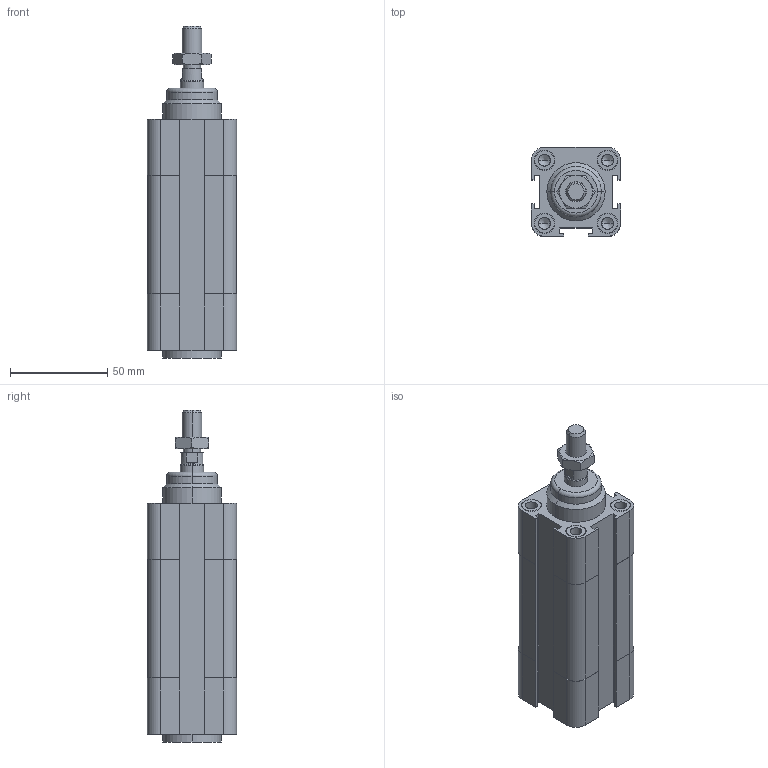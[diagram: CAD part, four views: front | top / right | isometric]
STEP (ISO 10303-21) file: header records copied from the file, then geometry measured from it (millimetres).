
FILE_DESCRIPTION((''),'2;1');
FILE_NAME('F:\Lib-3d\1380\CIL\1380_32_0025_01.stp','2004-01-07T15:54:17',('maffial1'),(''),'Autodesk Inventor 8','Autodesk Inventor 8','');
FILE_SCHEMA(('AUTOMOTIVE_DESIGN { 1 0 10303 214 1 1 1 1 }'));
Length unit declared in the file: millimetre
Products named in the file (4): 1380_32_0025_01; CPP01_32_25; CPP02_32_25; 1320_32_18F
Assembly tree (3 placements, depth 2):
  1380_32_0025_01
    CPP01_32_25
    CPP02_32_25
    1320_32_18F
Bounding box: 46 x 46 x 171 mm (x, y, z)
Volume: 233277.5 mm3; surface area: 42566 mm2
Topology: 3 solids, 3 shells, 244 faces, 570 edges, 356 vertices
Faces by surface type: plane 83, bspline 67, cylinder 58, cone 34, torus 2
Entity records: 7668 total; most frequent: CARTESIAN_POINT 2166, DIRECTION 1136, ORIENTED_EDGE 1108, EDGE_CURVE 554, AXIS2_PLACEMENT_3D 422, VERTEX_POINT 356, VECTOR 292, LINE 292
